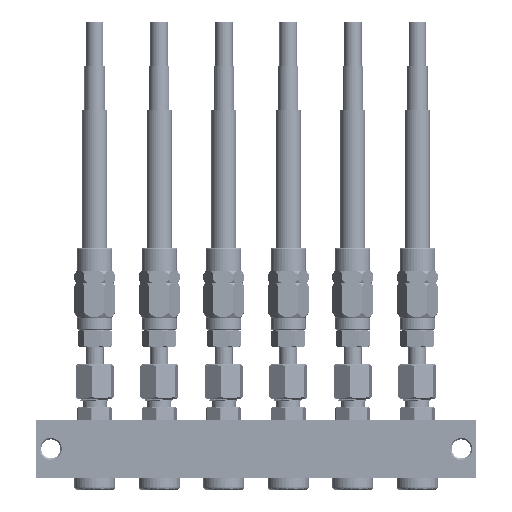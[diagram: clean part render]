
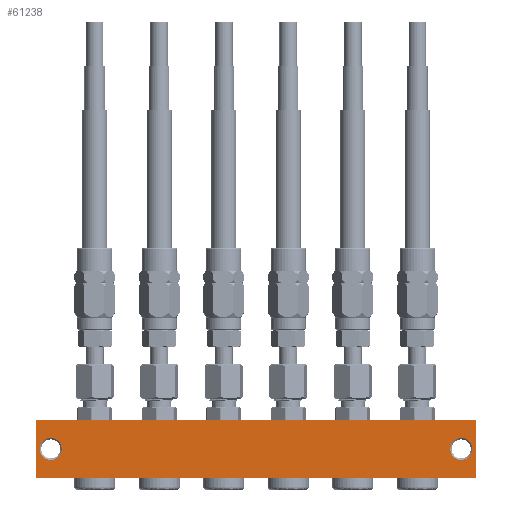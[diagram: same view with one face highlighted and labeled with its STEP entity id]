
A CAD part, front view. The second image highlights one B-rep face of the part: STEP entity #61238.
In plain terms, the highlighted planar face has unit normal (0, -1, 0).
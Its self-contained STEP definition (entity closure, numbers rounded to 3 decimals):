
#1785 = CARTESIAN_POINT ( 'NONE',  ( 70., 0., 0. ) ) ;
#4559 = FACE_BOUND ( 'NONE', #55343, .T. ) ;
#5844 = DIRECTION ( 'NONE',  ( 0., 1., 0. ) ) ;
#7839 = AXIS2_PLACEMENT_3D ( 'NONE', #68418, #28335, #36089 ) ;
#8305 = CARTESIAN_POINT ( 'NONE',  ( -75., 0., -10. ) ) ;
#11766 = CARTESIAN_POINT ( 'NONE',  ( 70., 0., 3.75 ) ) ;
#12908 = CARTESIAN_POINT ( 'NONE',  ( 75., 0., 10. ) ) ;
#13323 = VECTOR ( 'NONE', #67893, 1000. ) ;
#13756 = EDGE_CURVE ( 'NONE', #36279, #18885, #80810, .T. ) ;
#14565 = CARTESIAN_POINT ( 'NONE',  ( 75., 0., 10. ) ) ;
#17033 = FACE_BOUND ( 'NONE', #61573, .T. ) ;
#17719 = AXIS2_PLACEMENT_3D ( 'NONE', #1785, #5844, #32117 ) ;
#18885 = VERTEX_POINT ( 'NONE', #39226 ) ;
#26426 = ORIENTED_EDGE ( 'NONE', *, *, #44795, .T. ) ;
#27296 = ORIENTED_EDGE ( 'NONE', *, *, #81425, .F. ) ;
#28335 = DIRECTION ( 'NONE',  ( 0., 1., 0. ) ) ;
#30036 = ORIENTED_EDGE ( 'NONE', *, *, #13756, .T. ) ;
#32117 = DIRECTION ( 'NONE',  ( 0., 0., 1. ) ) ;
#34384 = LINE ( 'NONE', #14565, #65928 ) ;
#34744 = ORIENTED_EDGE ( 'NONE', *, *, #78484, .T. ) ;
#36089 = DIRECTION ( 'NONE',  ( 0., 0., 1. ) ) ;
#36279 = VERTEX_POINT ( 'NONE', #8305 ) ;
#37509 = EDGE_CURVE ( 'NONE', #64590, #18885, #78395, .T. ) ;
#39226 = CARTESIAN_POINT ( 'NONE',  ( 75., 0., -10. ) ) ;
#43306 = VECTOR ( 'NONE', #71881, 1000. ) ;
#44795 = EDGE_CURVE ( 'NONE', #69088, #69088, #51925, .T. ) ;
#47376 = AXIS2_PLACEMENT_3D ( 'NONE', #77359, #84229, #69620 ) ;
#50971 = ORIENTED_EDGE ( 'NONE', *, *, #66522, .T. ) ;
#51267 = DIRECTION ( 'NONE',  ( 0., 0., -1. ) ) ;
#51830 = ORIENTED_EDGE ( 'NONE', *, *, #37509, .F. ) ;
#51925 = CIRCLE ( 'NONE', #7839, 3.75 ) ;
#54856 = CIRCLE ( 'NONE', #17719, 3.75 ) ;
#55164 = CARTESIAN_POINT ( 'NONE',  ( -75., 0., 10. ) ) ;
#55343 = EDGE_LOOP ( 'NONE', ( #26426 ) ) ;
#56266 = PLANE ( 'NONE',  #47376 ) ;
#58609 = VECTOR ( 'NONE', #51267, 1000. ) ;
#58943 = LINE ( 'NONE', #78331, #43306 ) ;
#61238 = ADVANCED_FACE ( 'NONE', ( #17033, #4559, #70904 ), #56266, .F. ) ;
#61573 = EDGE_LOOP ( 'NONE', ( #34744 ) ) ;
#61765 = CARTESIAN_POINT ( 'NONE',  ( -70., 0., 3.75 ) ) ;
#63054 = VERTEX_POINT ( 'NONE', #11766 ) ;
#64590 = VERTEX_POINT ( 'NONE', #73418 ) ;
#65928 = VECTOR ( 'NONE', #73608, 1000. ) ;
#66522 = EDGE_CURVE ( 'NONE', #74544, #36279, #58943, .T. ) ;
#67893 = DIRECTION ( 'NONE',  ( 1., 0., 0. ) ) ;
#68418 = CARTESIAN_POINT ( 'NONE',  ( -70., 0., 0. ) ) ;
#69088 = VERTEX_POINT ( 'NONE', #61765 ) ;
#69620 = DIRECTION ( 'NONE',  ( 0., 0., 1. ) ) ;
#70904 = FACE_OUTER_BOUND ( 'NONE', #71809, .T. ) ;
#71809 = EDGE_LOOP ( 'NONE', ( #30036, #51830, #27296, #50971 ) ) ;
#71881 = DIRECTION ( 'NONE',  ( 0., 0., -1. ) ) ;
#73418 = CARTESIAN_POINT ( 'NONE',  ( 75., 0., 10. ) ) ;
#73608 = DIRECTION ( 'NONE',  ( 1., 0., 0. ) ) ;
#74371 = CARTESIAN_POINT ( 'NONE',  ( 75., 0., -10. ) ) ;
#74544 = VERTEX_POINT ( 'NONE', #55164 ) ;
#77359 = CARTESIAN_POINT ( 'NONE',  ( 75., 0., 10. ) ) ;
#78331 = CARTESIAN_POINT ( 'NONE',  ( -75., 0., 10. ) ) ;
#78395 = LINE ( 'NONE', #12908, #58609 ) ;
#78484 = EDGE_CURVE ( 'NONE', #63054, #63054, #54856, .T. ) ;
#80810 = LINE ( 'NONE', #74371, #13323 ) ;
#81425 = EDGE_CURVE ( 'NONE', #74544, #64590, #34384, .T. ) ;
#84229 = DIRECTION ( 'NONE',  ( 0., 1., 0. ) ) ;
